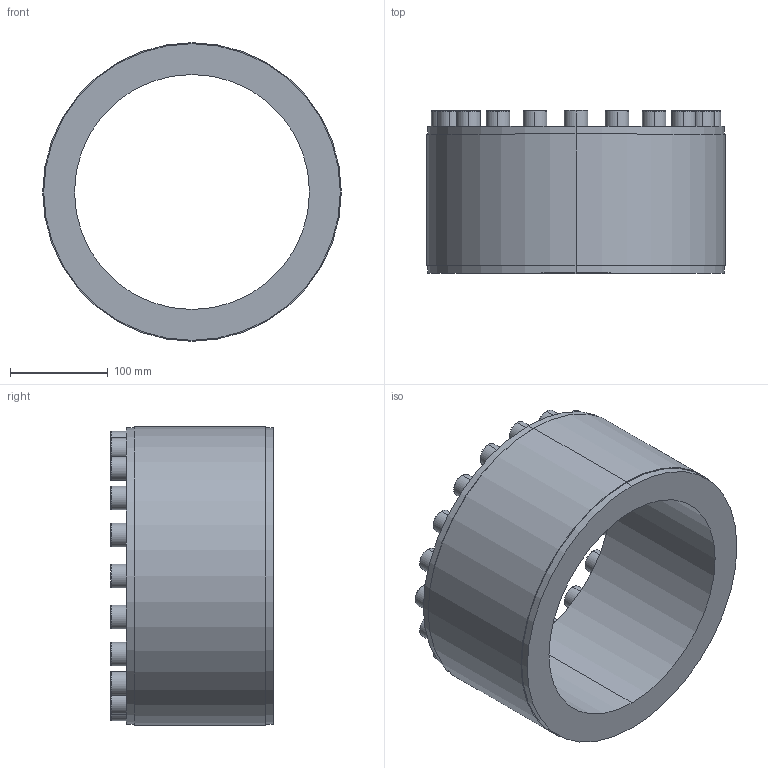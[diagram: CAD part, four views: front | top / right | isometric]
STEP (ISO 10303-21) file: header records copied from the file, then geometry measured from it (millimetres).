
FILE_DESCRIPTION (( 'STEP AP203' ), '1' );
FILE_NAME ('PL-D1 240-305.STEP', '2021-10-23T00:23:23', ( '' ), ( '' ), 'SwSTEP 2.0', 'SolidWorks 2018', '' );
FILE_SCHEMA (( 'CONFIG_CONTROL_DESIGN' ));
Length unit declared in the file: millimetre
Products named in the file (1): PL-D1 240-305
Bounding box: 305 x 166 x 305 mm (x, y, z)
Volume: 4275654.7 mm3; surface area: 343931.3 mm2
Topology: 1 solids, 1 shells, 252 faces, 584 edges, 376 vertices
Faces by surface type: plane 164, cylinder 48, torus 40
Entity records: 7205 total; most frequent: DIRECTION 1266, CARTESIAN_POINT 1213, ORIENTED_EDGE 1168, EDGE_CURVE 584, AXIS2_PLACEMENT_3D 429, LINE 408, VECTOR 408, VERTEX_POINT 376
